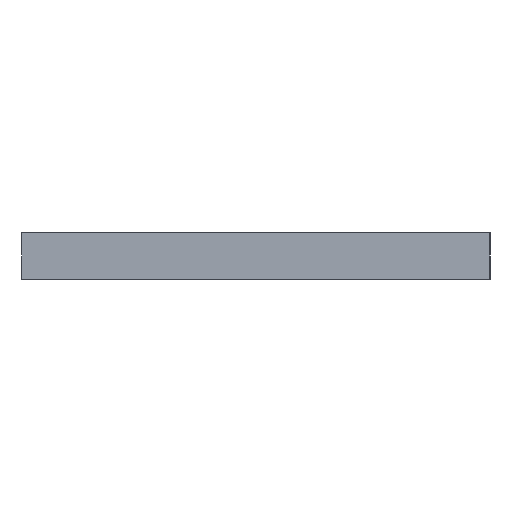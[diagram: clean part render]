
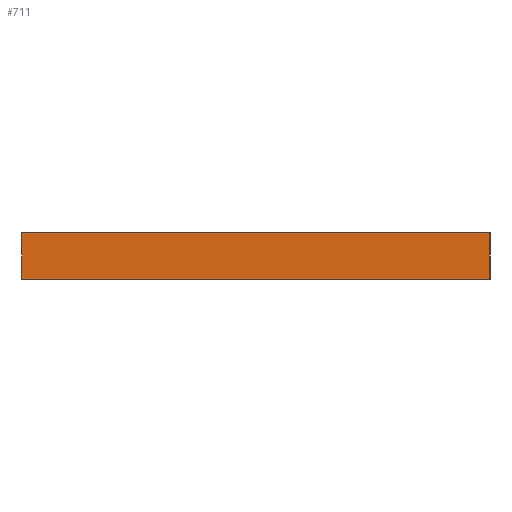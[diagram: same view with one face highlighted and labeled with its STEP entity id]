
A CAD part, left-side view. The second image highlights one B-rep face of the part: STEP entity #711.
In plain terms, the highlighted planar face has unit normal (-1, 0, 0).
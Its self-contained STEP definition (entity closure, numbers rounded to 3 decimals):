
#14 = DIRECTION ( 'NONE',  ( 0., 0., -1. ) ) ;
#39 = CARTESIAN_POINT ( 'NONE',  ( 0., 0., 15. ) ) ;
#51 = ORIENTED_EDGE ( 'NONE', *, *, #243, .F. ) ;
#54 = EDGE_CURVE ( 'NONE', #446, #163, #258, .T. ) ;
#81 = DIRECTION ( 'NONE',  ( 0., 0., -1. ) ) ;
#118 = EDGE_CURVE ( 'NONE', #163, #487, #742, .T. ) ;
#146 = LINE ( 'NONE', #717, #268 ) ;
#150 = ORIENTED_EDGE ( 'NONE', *, *, #410, .F. ) ;
#163 = VERTEX_POINT ( 'NONE', #585 ) ;
#183 = CARTESIAN_POINT ( 'NONE',  ( 0., 0., 15. ) ) ;
#192 = CARTESIAN_POINT ( 'NONE',  ( 0., 150., 15. ) ) ;
#236 = FACE_OUTER_BOUND ( 'NONE', #635, .T. ) ;
#243 = EDGE_CURVE ( 'NONE', #508, #487, #146, .T. ) ;
#258 = LINE ( 'NONE', #192, #343 ) ;
#260 = ORIENTED_EDGE ( 'NONE', *, *, #54, .T. ) ;
#268 = VECTOR ( 'NONE', #592, 1000. ) ;
#302 = DIRECTION ( 'NONE',  ( 0., -1., 0. ) ) ;
#343 = VECTOR ( 'NONE', #14, 1000. ) ;
#352 = LINE ( 'NONE', #39, #502 ) ;
#399 = CARTESIAN_POINT ( 'NONE',  ( 0., 0., 0. ) ) ;
#410 = EDGE_CURVE ( 'NONE', #446, #508, #352, .T. ) ;
#421 = VECTOR ( 'NONE', #302, 1000. ) ;
#436 = DIRECTION ( 'NONE',  ( 0., -1., 0. ) ) ;
#446 = VERTEX_POINT ( 'NONE', #492 ) ;
#480 = AXIS2_PLACEMENT_3D ( 'NONE', #183, #699, #81 ) ;
#487 = VERTEX_POINT ( 'NONE', #399 ) ;
#492 = CARTESIAN_POINT ( 'NONE',  ( 0., 150., 15. ) ) ;
#502 = VECTOR ( 'NONE', #436, 1000. ) ;
#508 = VERTEX_POINT ( 'NONE', #677 ) ;
#524 = PLANE ( 'NONE',  #480 ) ;
#585 = CARTESIAN_POINT ( 'NONE',  ( 0., 150., 0. ) ) ;
#588 = CARTESIAN_POINT ( 'NONE',  ( 0., 0., 0. ) ) ;
#592 = DIRECTION ( 'NONE',  ( 0., 0., -1. ) ) ;
#635 = EDGE_LOOP ( 'NONE', ( #722, #51, #150, #260 ) ) ;
#677 = CARTESIAN_POINT ( 'NONE',  ( 0., 0., 15. ) ) ;
#699 = DIRECTION ( 'NONE',  ( 1., 0., 0. ) ) ;
#711 = ADVANCED_FACE ( 'NONE', ( #236 ), #524, .F. ) ;
#717 = CARTESIAN_POINT ( 'NONE',  ( 0., 0., 15. ) ) ;
#722 = ORIENTED_EDGE ( 'NONE', *, *, #118, .T. ) ;
#742 = LINE ( 'NONE', #588, #421 ) ;
